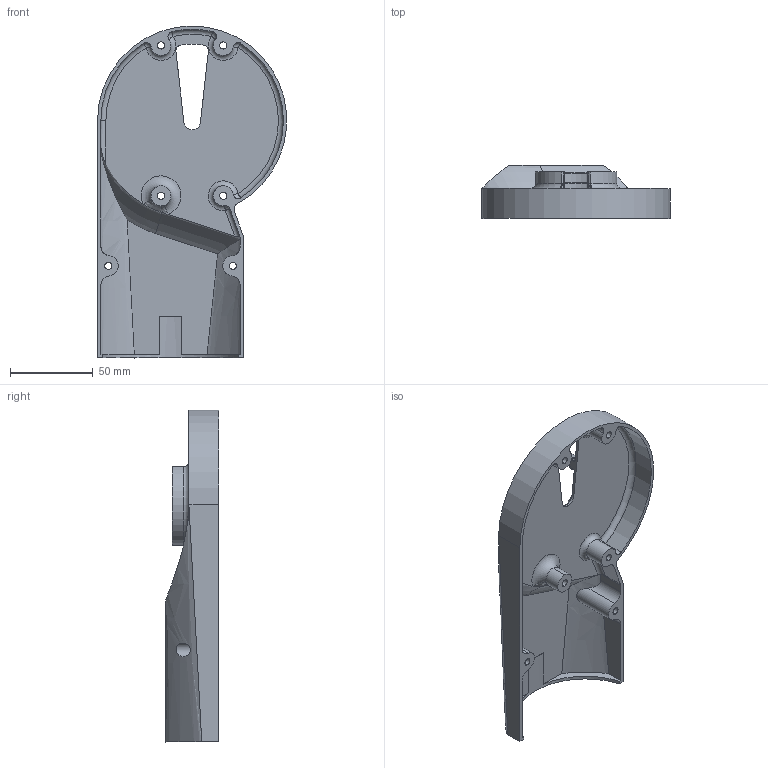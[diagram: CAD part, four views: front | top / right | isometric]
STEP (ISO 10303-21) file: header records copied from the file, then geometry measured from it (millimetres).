
FILE_DESCRIPTION((''),'2;1');
FILE_NAME('KD-C-202R_UPBICEPIDLE_1','2025-07-12T14:03:23',('Administrator'),(''),'CREO PARAMETRIC BY PTC INC, 2022073','CREO PARAMETRIC BY PTC INC, 2022073','');
FILE_SCHEMA(('CONFIG_CONTROL_DESIGN'));
Length unit declared in the file: millimetre
Products named in the file (1): KD-C-202R_UPBICEPIDLE_1
Bounding box: 113.82 x 32.25 x 200 mm (x, y, z)
Volume: 71556.2 mm3; surface area: 61309.2 mm2
Topology: 1 solids, 1 shells, 145 faces, 429 edges, 285 vertices
Faces by surface type: cylinder 64, plane 33, cone 16, torus 14, bspline 8, sphere 6, extrusion 2, revolution 2
Entity records: 6050 total; most frequent: CARTESIAN_POINT 2072, DIRECTION 844, ORIENTED_EDGE 844, EDGE_CURVE 422, AXIS2_PLACEMENT_3D 349, VERTEX_POINT 285, CIRCLE 216, EDGE_LOOP 165
